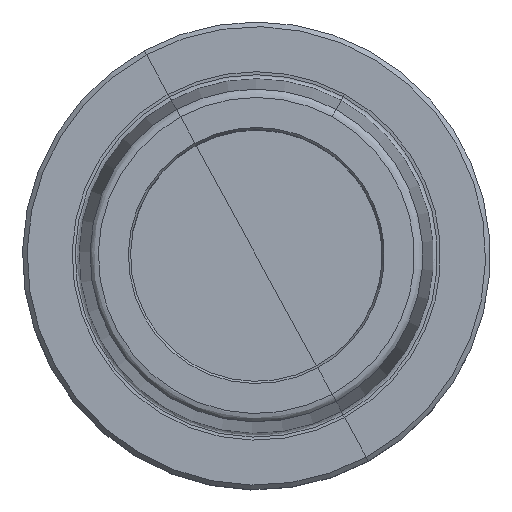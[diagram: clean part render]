
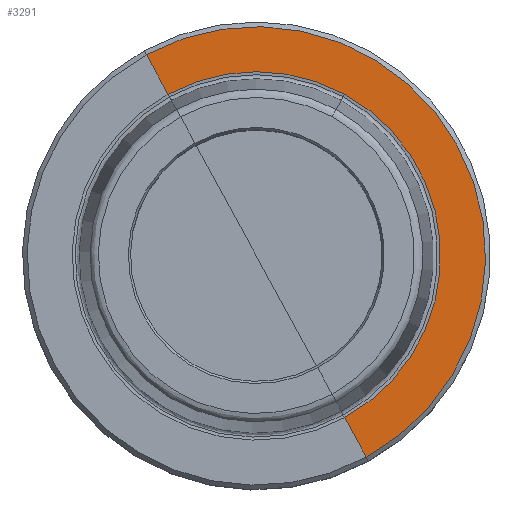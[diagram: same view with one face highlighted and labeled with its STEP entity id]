
A CAD part, top view. The second image highlights one B-rep face of the part: STEP entity #3291.
In plain terms, the highlighted planar face has unit normal (0, 0, 1).
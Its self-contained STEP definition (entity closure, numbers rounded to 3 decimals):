
#486=AXIS2_PLACEMENT_3D('Plane Axis2P3D',#483,#484,#485) ;
#2361=AXIS2_PLACEMENT_3D('Circle Axis2P3D',#2359,#2360,$) ;
#3268=AXIS2_PLACEMENT_3D('Circle Axis2P3D',#3266,#3267,$) ;
#3281=AXIS2_PLACEMENT_3D('Circle Axis2P3D',#3279,#3280,$) ;
#458=CARTESIAN_POINT('Vertex',(-18.88,34.56,0.)) ;
#465=CARTESIAN_POINT('Vertex',(18.88,-34.56,0.)) ;
#483=CARTESIAN_POINT('Axis2P3D Location',(0.,-38.285,0.)) ;
#488=CARTESIAN_POINT('Line Origine',(-21.186,38.781,0.)) ;
#492=CARTESIAN_POINT('Vertex',(-23.492,43.002,0.)) ;
#499=CARTESIAN_POINT('Vertex',(23.492,-43.002,0.)) ;
#502=CARTESIAN_POINT('Line Origine',(21.186,-38.781,0.)) ;
#2359=CARTESIAN_POINT('Axis2P3D Location',(0.,0.,0.)) ;
#2363=CARTESIAN_POINT('Vertex',(18.88,34.56,0.)) ;
#3266=CARTESIAN_POINT('Axis2P3D Location',(0.,0.,0.)) ;
#3279=CARTESIAN_POINT('Axis2P3D Location',(0.,0.,0.)) ;
#484=DIRECTION('Axis2P3D Direction',(0.,0.,-1.)) ;
#485=DIRECTION('Axis2P3D XDirection',(-1.,0.,0.)) ;
#489=DIRECTION('Vector Direction',(0.479,-0.878,0.)) ;
#503=DIRECTION('Vector Direction',(-0.479,0.878,0.)) ;
#2360=DIRECTION('Axis2P3D Direction',(0.,0.,1.)) ;
#3267=DIRECTION('Axis2P3D Direction',(0.,0.,1.)) ;
#3280=DIRECTION('Axis2P3D Direction',(0.,0.,-1.)) ;
#490=VECTOR('Line Direction',#489,1.) ;
#504=VECTOR('Line Direction',#503,1.) ;
#3285=ORIENTED_EDGE('',*,*,#3270,.T.) ;
#3286=ORIENTED_EDGE('',*,*,#494,.F.) ;
#3287=ORIENTED_EDGE('',*,*,#2365,.F.) ;
#3288=ORIENTED_EDGE('',*,*,#3283,.F.) ;
#3289=ORIENTED_EDGE('',*,*,#506,.T.) ;
#3291=ADVANCED_FACE('NOCUT',(#3290),#487,.F.) ;
#2362=CIRCLE('generated circle',#2361,39.381) ;
#3269=CIRCLE('generated circle',#3268,49.) ;
#3282=CIRCLE('generated circle',#3281,39.381) ;
#494=EDGE_CURVE('',#459,#493,#491,.F.) ;
#506=EDGE_CURVE('',#466,#500,#505,.F.) ;
#2365=EDGE_CURVE('',#2364,#459,#2362,.T.) ;
#3270=EDGE_CURVE('',#500,#493,#3269,.T.) ;
#3283=EDGE_CURVE('',#466,#2364,#3282,.F.) ;
#3284=EDGE_LOOP('',(#3285,#3286,#3287,#3288,#3289)) ;
#3290=FACE_OUTER_BOUND('',#3284,.T.) ;
#491=LINE('Line',#488,#490) ;
#505=LINE('Line',#502,#504) ;
#487=PLANE('',#486) ;
#459=VERTEX_POINT('',#458) ;
#466=VERTEX_POINT('',#465) ;
#493=VERTEX_POINT('',#492) ;
#500=VERTEX_POINT('',#499) ;
#2364=VERTEX_POINT('',#2363) ;
